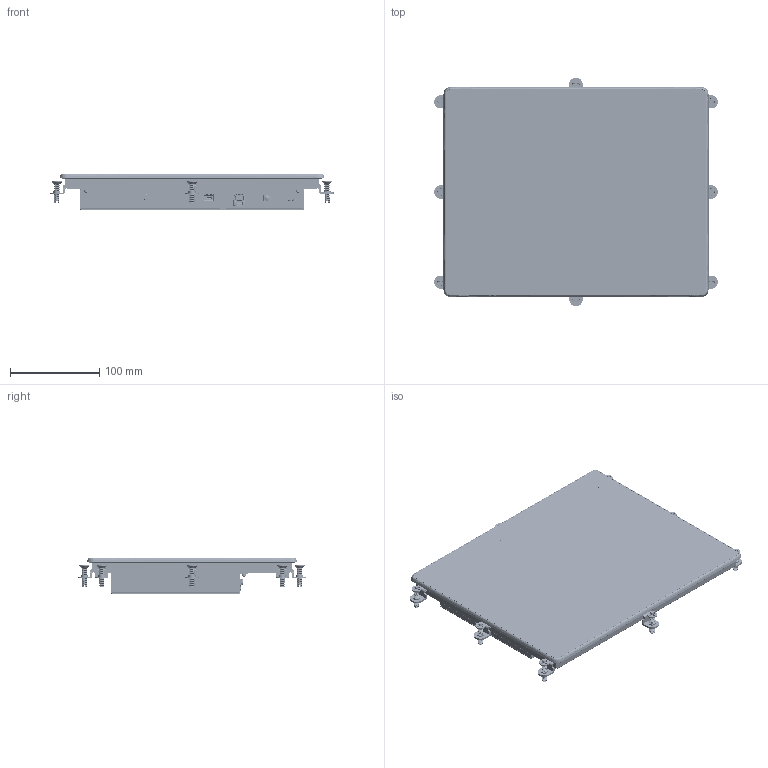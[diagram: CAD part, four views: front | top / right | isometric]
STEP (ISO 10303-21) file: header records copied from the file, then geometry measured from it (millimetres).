
FILE_DESCRIPTION((''),'2;1');
FILE_NAME('NT4A-121','2026-06-02T13:20:54',('gijyu181'),(''),'CREO PARAMETRIC BY PTC INC, 2018050','CREO PARAMETRIC BY PTC INC, 2018050','');
FILE_SCHEMA(('CONFIG_CONTROL_DESIGN','SHAPE_APPEARANCE_LAYERS_GROUPS'));
Products named in the file (1): NT4A-121
Bounding box: 317.6 x 256.1 x 40.5 mm (x, y, z)
Volume: 760387.5 mm3; surface area: 606041.4 mm2
Topology: 17 solids, 65 shells, 9479 faces, 25929 edges, 16918 vertices
Faces by surface type: plane 6017, cylinder 2171, extrusion 569, cone 392, bspline 214, sphere 70, torus 42, revolution 4
Entity records: 410125 total; most frequent: CARTESIAN_POINT 117369, ORIENTED_EDGE 51844, DIRECTION 45212, EDGE_CURVE 25925, VECTOR 19170, LINE 18601, VERTEX_POINT 16918, AXIS2_PLACEMENT_3D 13019
